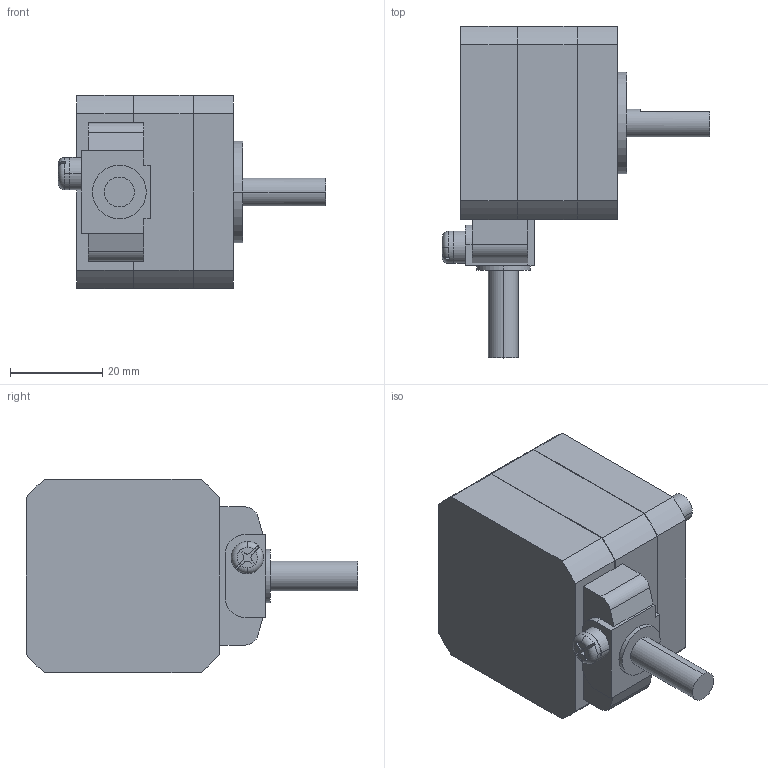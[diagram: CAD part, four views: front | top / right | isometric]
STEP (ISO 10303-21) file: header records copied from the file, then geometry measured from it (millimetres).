
FILE_DESCRIPTION( ( '' ), '1' );
FILE_NAME( '//expscmdclustefs.cadenas.external/client_exchange/iodir/jobs/output/wkb58557255_no0/STEP/RKS543ACD_1_2_03.stp', '2013-05-28T09:32:42', ( '' ), ( '' ), ' ', ' ', ' ' );
FILE_SCHEMA( ( 'CONFIG_CONTROL_DESIGN' ) );
Length unit declared in the file: millimetre
Products named in the file (1): 1
Bounding box: 58 x 72 x 42 mm (x, y, z)
Volume: 64771.3 mm3; surface area: 10954.2 mm2
Topology: 1 solids, 1 shells, 133 faces, 346 edges, 220 vertices
Faces by surface type: plane 63, cylinder 50, cone 16, torus 4
Entity records: 4134 total; most frequent: CARTESIAN_POINT 760, DIRECTION 724, ORIENTED_EDGE 676, EDGE_CURVE 338, AXIS2_PLACEMENT_3D 256, VERTEX_POINT 220, LINE 212, VECTOR 212
